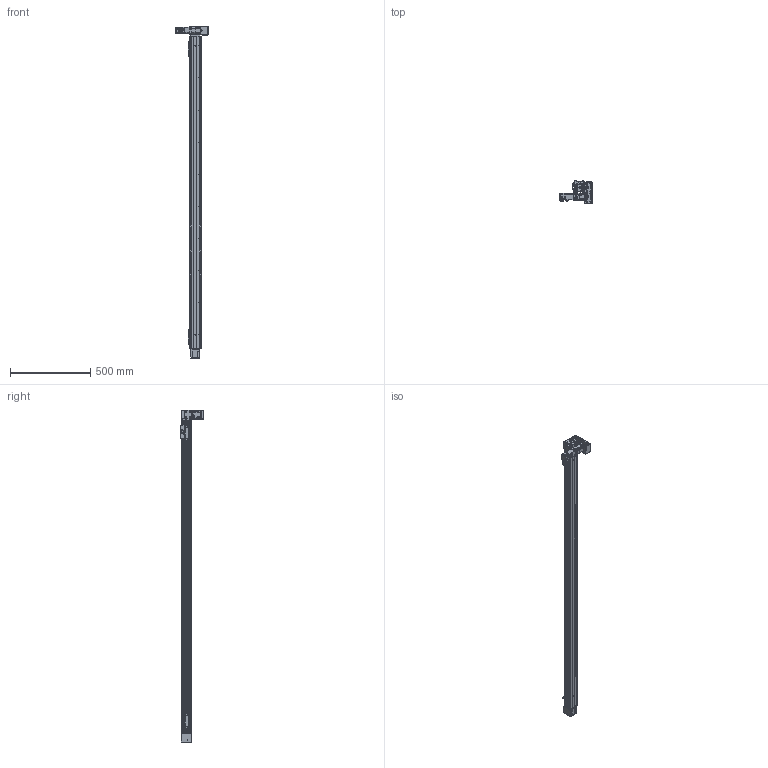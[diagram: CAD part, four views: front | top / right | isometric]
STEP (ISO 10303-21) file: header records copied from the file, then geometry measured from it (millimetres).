
FILE_DESCRIPTION(/* description */ (''),/* implementation_level */ '2;1');
FILE_NAME(/* name */ '\\192.168.0.160\disk1\HAN SHIN Master\B-설계부문\C-표준\B-2024년\BC02-표준도면\+로봇 개선표준도면\홈페이지 표준 도면\홈페이지 최종 작업 폴더\3D\HSB\HSB55\HSB55-DR1G-N-1800-L.stp',/* time_stamp */ '2025-06-19T20:24:16+09:00',/* author */ ('user'),/* organization */ (''),/* preprocessor_version */ 'ST-DEVELOPER v18.1',/* originating_system */ 'Autodesk Inventor 2022',/* authorisation */ '');
FILE_SCHEMA (('AUTOMOTIVE_DESIGN { 1 0 10303 214 3 1 1 }'));
Products named in the file (42): HSB55-DR1G-N-0500-L; HSB55 BASE; HSB55 TABLE; UPCOVER; HSB55 HOUSING (Connecting); HSB55 FRONT HOUSIONG; HSB55 REAR SHAFT-1; HSB55 REAR SHAFT; HSB55 DOWN CLAMP; M4-25(렌치볼트); HSB55 HOUSING-R1; HSB55 TENSION PLATE; ISO 4032 - M4; HSB55 UP CLAMP; M4-12(렌치볼트); SIDE COVER_대칭도; SIDE COVER; HR45 STOPPER; HSB55 ACRYL COVER-R1; HSB55 ACRYL COVER; HSB160 BEARING OVER; HSB55 END COVER; HSB160 SHAFT-1; EC-6202ZZ; EC-6202ZZ Inner ring; EC-6202ZZ Outer ring; EC-6202ZZ St; EC-6202ZZ Ball; EC-6202ZZ B1; HR45 SENSOR DOG; hsr_ftht_A-M6F_grease_nipple_joint; NIPPLE CAP(신규); HR45 SENSOR RAIL; EE_SX674A; PGX44-H-1_3; hg-kr13_; MOTOR PLATE-100W(MITSUBISHI); HSB55 D BELT COVER; HR65-BELT COVER-COVER; HR65-BELT COVER-COVER3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
Assembly tree (64 placements, depth 3):
  HSB55-DR1G-N-0500-L
    HSB55 BASE
    HSB55 TABLE
    UPCOVER
    HSB55 FRONT HOUSIONG  x2
    HSB55 HOUSING (Connecting)
    HSB55 REAR SHAFT-1
    #132461  x2
    HSB55 REAR SHAFT
    HSB55 DOWN CLAMP  x2
    HSB55 UP CLAMP  x2
    M4-25(렌치볼트)
    ISO 4032 - M4  x2
    HSB55 HOUSING-R1
    HSB55 TENSION PLATE  x2
    M4-12(렌치볼트)
    SIDE COVER_대칭도
    SIDE COVER
    HR45 STOPPER  x2
    HSB55 ACRYL COVER  x4
    HSB55 ACRYL COVER-R1
    HSB160 BEARING OVER
    HSB55 END COVER
    HSB160 SHAFT-1
    EC-6202ZZ  x2
      EC-6202ZZ Inner ring
      EC-6202ZZ Outer ring
      EC-6202ZZ B1
      EC-6202ZZ St
      EC-6202ZZ Ball
    HR45 SENSOR DOG
    EE_SX674A  x3
    HR45 SENSOR RAIL  x2
    hsr_ftht_A-M6F_grease_nipple_joint
    NIPPLE CAP(신규)
    PGX44-H-1_3
    hg-kr13_
    MOTOR PLATE-100W(MITSUBISHI)
    HSB55 D BELT COVER
    HR65-BELT COVER-COVER
    HR65-BELT COVER-COVER3
    HSB55 D MOTOR PLATE
    HR65-BELT COVER-COVER2
Bounding box: 201.4 x 142.7 x 2067 mm (x, y, z)
Volume: 3386979.8 mm3; surface area: 1542280.2 mm2
Topology: 90 solids, 90 shells, 5234 faces, 14358 edges, 9398 vertices
Faces by surface type: plane 3629, cylinder 1242, cone 284, torus 35, sphere 22, bspline 22
Full cylindrical faces by diameter (mm): 1 x2, 2 x3, 2.013 x4, 2.459 x102, 2.5 x5, 3 x3, 3.242 x76, 3.3 x9, 3.4 x16, 3.5 x75, 4 x12, 4.134 x20, 4.2 x4, 4.5 x45, 4.917 x2, 5 x8, 5.5 x1, 5.6 x3, 5.9 x2, 6 x46, 6.5 x4, 7 x6, 7.5 x4, 8 x18, 8.2 x1, 9 x2, 9.5 x2, 10 x1, 11.5 x2, 12 x6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
Entity records: 132419 total; most frequent: CARTESIAN_POINT 26812, ORIENTED_EDGE 21672, DIRECTION 21299, EDGE_CURVE 10836, LINE 7659, VECTOR 7659, VERTEX_POINT 7132, AXIS2_PLACEMENT_3D 6820
